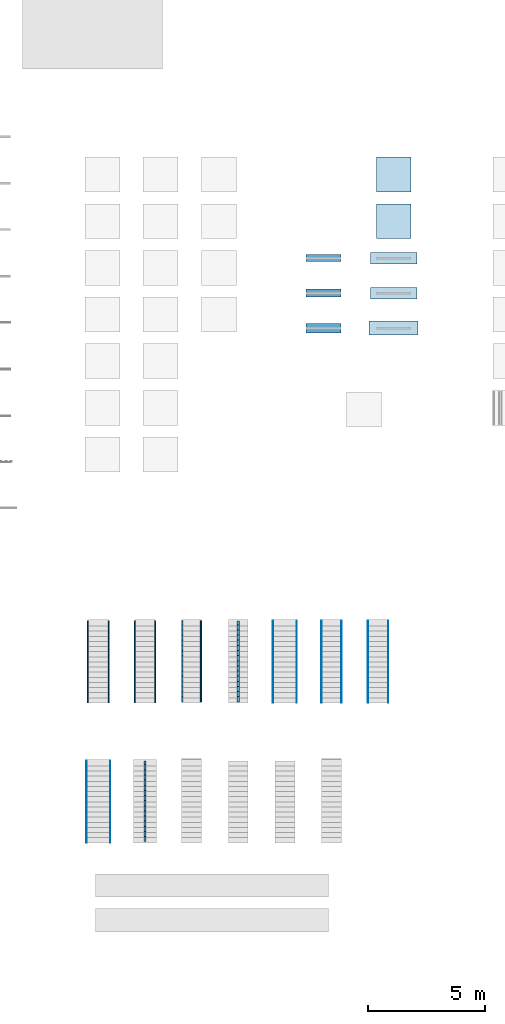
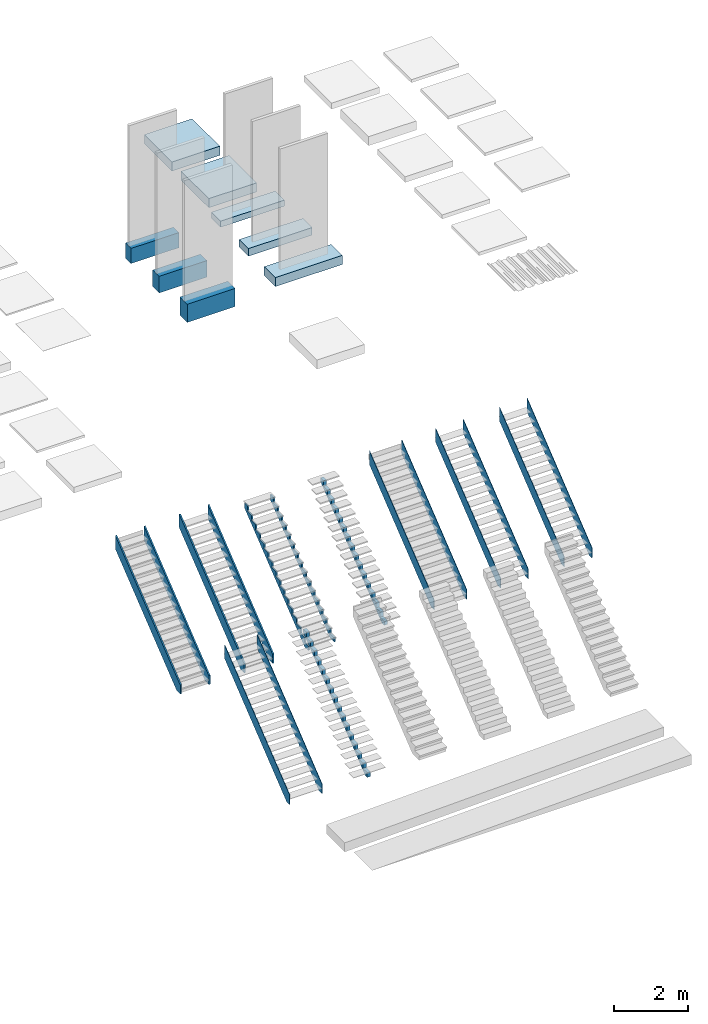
# One storey, part 1 of 14: 16 members, 8 footings, 9 elements without a shape of their own.
"""IFC2X3 building model written with IfcOpenShell, lengths in millimetres."""

from ifc_helpers import new_model, entity, si_unit, converted_unit, derived_unit, direction, frame, frame_2d, origin, origin_2d_with_axis, place, context, subcontext, project, spatial, polyline, rectangle, outline, extrude, material, layer, layer_set, layer_usage, type_object, element, aggregate, save


model = new_model("IFC2X3")

# Units and contexts
model_context = context("Model", 3, precision=0.01, world=origin(), true_north=direction((6.12303176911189e-17, 1.0)))
context_of_model = context(None, 3, precision=0.01, world=origin(), true_north=direction((6.12303176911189e-17, 1.0)))
body_context = subcontext(model_context, "Body", "Model", "MODEL_VIEW")
ifc_project = project(units=[si_unit("LENGTHUNIT", "METRE", prefix="MILLI"), si_unit("AREAUNIT", "SQUARE_METRE"), si_unit("VOLUMEUNIT", "CUBIC_METRE"), converted_unit("PLANEANGLEUNIT", "DEGREE", entity("IfcRatioMeasure", 0.0174532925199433), si_unit("PLANEANGLEUNIT", "RADIAN"), dimensions=[0, 0, 0, 0, 0, 0, 0]), si_unit("MASSUNIT", "GRAM", prefix="KILO"), si_unit("TIMEUNIT", "SECOND"), si_unit("FREQUENCYUNIT", "HERTZ"), si_unit("THERMODYNAMICTEMPERATUREUNIT", "KELVIN"), derived_unit("THERMALTRANSMITTANCEUNIT", [(si_unit("MASSUNIT", "GRAM", prefix="KILO"), 1), (si_unit("THERMODYNAMICTEMPERATUREUNIT", "KELVIN"), -1), (si_unit("TIMEUNIT", "SECOND"), -3)]), derived_unit("VOLUMETRICFLOWRATEUNIT", [(si_unit("LENGTHUNIT", "METRE"), 3), (si_unit("TIMEUNIT", "SECOND"), -1)]), si_unit("ELECTRICCURRENTUNIT", "AMPERE"), si_unit("ELECTRICVOLTAGEUNIT", "VOLT"), si_unit("POWERUNIT", "WATT")], contexts=[model_context, context_of_model])

# Site, building, storey
site_placement = place(None, origin())
site = spatial("IfcSite", under=ifc_project, at=site_placement, Name="Surface", CompositionType="ELEMENT")
building_placement = place(site_placement, origin())
building = spatial("IfcBuilding", under=site, at=building_placement, CompositionType="ELEMENT")
storey_placement = place(building_placement, origin())
storey = spatial("IfcBuildingStorey", under=building, at=storey_placement, Name="00_begane grond", CompositionType="ELEMENT", Elevation=0.0)

# Footings
ifc_material_1 = material(Name="00_beton_ihwg_generiek")
ifc_layer_1 = layer(ifc_material_1, 300.0)
ifc_layer_set_1 = layer_set([ifc_layer_1], Name="Foundation Slab:16_SFO_funderingsplaat_beton_generiek_300")
ifc_layer_usage_1 = layer_usage(ifc_layer_set_1, "AXIS3", "POSITIVE", 0.0)
footing_1_placement = place(storey_placement, origin())
element("IfcFooting", 1, at=footing_1_placement, inside=storey, material=ifc_layer_usage_1, Name="Foundation Slab:16_SFO_funderingsplaat_beton_generiek_300", ObjectType="Foundation Slab:16_SFO_funderingsplaat_beton_generiek_300", PredefinedType="NOTDEFINED", context=body_context, shape_type="SweptSolid", body=[
    extrude(rectangle(XDim=1500.0, YDim=1500.00000000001, at=frame_2d((-1.13686837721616e-13, 0.0), x_axis=(1.0, 0.0))), frame((30443.3473849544, -2665.0, 0.0), z_axis=(0.0, 0.0, -1.0), x_axis=(0.0, 1.0, 0.0)), (0.0, 0.0, 1.0), 300.0),
])
ifc_material_2 = material(Name="16_beton_ihwg_C30/35")
ifc_layer_2 = layer(ifc_material_2, 300.0)
ifc_layer_set_2 = layer_set([ifc_layer_2], Name="Foundation Slab:16_SFO_funderingsplaat_ihwg_beton_C30/37")
ifc_layer_usage_2 = layer_usage(ifc_layer_set_2, "AXIS3", "POSITIVE", 0.0)
footing_2_placement = place(storey_placement, origin())
element("IfcFooting", 2, at=footing_2_placement, inside=storey, material=ifc_layer_usage_2, Name="Foundation Slab:16_SFO_funderingsplaat_ihwg_beton_C30/37", ObjectType="Foundation Slab:16_SFO_funderingsplaat_ihwg_beton_C30/37", PredefinedType="NOTDEFINED", context=body_context, shape_type="SweptSolid", body=[
    extrude(rectangle(XDim=1500.0, YDim=1500.00000000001, at=origin_2d_with_axis()), frame((30443.3473849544, -4665.0, 0.0), z_axis=(0.0, 0.0, -1.0), x_axis=(0.0, 1.0, 0.0)), (0.0, 0.0, 1.0), 300.0),
])
footing_3_placement = place(storey_placement, frame((29439.8687148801, -6498.93800739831, -200.0)))
element("IfcFooting", 3, at=footing_3_placement, inside=storey, material=ifc_material_2, Name="Wall Foundation:16_SFO_ihwg beton_C30-35_500x200", ObjectType="Wall Foundation:16_SFO_ihwg beton_C30-35_500x200", PredefinedType="STRIP_FOOTING", context=body_context, shape_type="SweptSolid", body=[
    extrude(rectangle(XDim=2000.0, YDim=500.0, at=frame_2d((2.1600499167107e-12, -5.40012479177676e-13), x_axis=(1.0, 0.0))), frame((1000.0, 250.0, 0.0)), (0.0, 0.0, 1.0), 200.0),
])
footing_4_placement = place(storey_placement, frame((29439.8687148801, -7998.93800739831, -250.0)))
element("IfcFooting", 4, at=footing_4_placement, inside=storey, material=ifc_material_2, Name="Wall Foundation:16_SFO_ihwg beton_C30-35_500x250", ObjectType="Wall Foundation:16_SFO_ihwg beton_C30-35_500x250", PredefinedType="STRIP_FOOTING", context=body_context, shape_type="SweptSolid", body=[
    extrude(rectangle(XDim=2000.0, YDim=500.0, at=frame_2d((2.1600499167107e-12, 5.40012479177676e-13), x_axis=(1.0, 0.0))), frame((1000.0, 250.0, 0.0)), (0.0, 0.0, 1.0), 250.0),
])
footing_5_placement = place(storey_placement, frame((29389.86871488, -9548.93800739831, -300.0)))
element("IfcFooting", 5, at=footing_5_placement, inside=storey, material=ifc_material_2, Name="Wall Foundation:16_SFO_ihwg beton_C30-35_600x300", ObjectType="Wall Foundation:16_SFO_ihwg beton_C30-35_600x300", PredefinedType="STRIP_FOOTING", context=body_context, shape_type="SweptSolid", body=[
    extrude(rectangle(XDim=2100.0, YDim=600.0, at=frame_2d((2.1600499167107e-12, 5.40012479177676e-13), x_axis=(1.0, 0.0))), frame((1050.0, 300.0, 0.0)), (0.0, 0.0, 1.0), 300.0),
])
ifc_material_3 = material(Name="16_beton_prefab_C35-45")
footing_6_placement = place(storey_placement, frame((26689.8687148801, -6398.9380073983, -500.0)))
element("IfcFooting", 6, at=footing_6_placement, inside=storey, material=ifc_material_3, Name="Wall Foundation:16_SFO_prefab beton_C35-45_300x500", ObjectType="Wall Foundation:16_SFO_prefab beton_C35-45_300x500", PredefinedType="STRIP_FOOTING", context=body_context, shape_type="SweptSolid", body=[
    extrude(rectangle(XDim=1500.0, YDim=300.0, at=frame_2d((2.1600499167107e-12, 0.0), x_axis=(1.0, 0.0))), frame((750.0, 150.0, 0.0)), (0.0, 0.0, 1.0), 500.0),
])
footing_7_placement = place(storey_placement, frame((26689.8687148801, -7923.9380073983, -550.0)))
element("IfcFooting", 7, at=footing_7_placement, inside=storey, material=ifc_material_3, Name="Wall Foundation:16_SFO_prefab beton_C35-45_350x550", ObjectType="Wall Foundation:16_SFO_prefab beton_C35-45_350x550", PredefinedType="STRIP_FOOTING", context=body_context, shape_type="SweptSolid", body=[
    extrude(rectangle(XDim=1500.0, YDim=349.999999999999, at=frame_2d((-2.1600499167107e-12, 1.08002495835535e-12), x_axis=(1.0, 0.0))), frame((750.0, 175.0, 0.0)), (0.0, 0.0, 1.0), 550.0),
])
footing_8_placement = place(storey_placement, frame((26689.86871488, -9448.9380073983, -600.0)))
element("IfcFooting", 8, at=footing_8_placement, inside=storey, material=ifc_material_3, Name="Wall Foundation:16_SFO_prefab beton_C35-45_400x600", ObjectType="Wall Foundation:16_SFO_prefab beton_C35-45_400x600", PredefinedType="STRIP_FOOTING", context=body_context, shape_type="SweptSolid", body=[
    extrude(rectangle(XDim=1500.0, YDim=400.0, at=frame_2d((-2.1600499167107e-12, 5.54223333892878e-13), x_axis=(1.0, 0.0))), frame((750.0, 200.0, 0.0)), (0.0, 0.0, 1.0), 600.0),
])

# Stair, members
stair_1_placement = place(storey_placement, origin())
stair_1 = element("IfcStair", 9, at=stair_1_placement, inside=storey, Name="Assembled Stair:Stair", ShapeType="NOTDEFINED")
member_type_1 = type_object("IfcMemberType", Name="Stringer:24_STS_trapboom_hout_vuren_45x50", PredefinedType="STRINGER")
member_1_placement = place(stair_1_placement, frame((17304.8089026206, -25324.6322235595, 0.0)))
member_1 = element("IfcMember", 10, at=member_1_placement, type_object=member_type_1, Name="Assembled Stair:Stair:68679 Stringer 1", ObjectType="Assembled Stair:24_ST_houten trap_gesloten_b=850_op=185_aan=220", context=body_context, shape_type="SweptSolid", body=[
    extrude(outline(polyline([(-1445.95512853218, -1217.55059934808), (-1256.1794858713, -1217.55059934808), (2074.04487146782, 1453.75236108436), (2074.04487146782, 1902.43912468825), (-1445.95512853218, -921.090287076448), (-1445.95512853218, -1217.55059934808)])), frame((0.0, 1445.95512853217, 1217.55059934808), z_axis=(1.0, 0.0, 0.0), x_axis=(0.0, 1.0, 0.0)), (0.0, 0.0, 1.0), 45.0000000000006),
])
member_2_placement = place(stair_1_placement, frame((18199.8089026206, -25324.6322235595, 0.0)))
member_2 = element("IfcMember", 11, at=member_2_placement, type_object=member_type_1, Name="Assembled Stair:Stair:68679 Stringer 2", ObjectType="Assembled Stair:24_ST_houten trap_gesloten_b=850_op=185_aan=220", context=body_context, shape_type="SweptSolid", body=[
    extrude(outline(polyline([(-1445.95512853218, -1217.55059934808), (-1256.17948587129, -1217.55059934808), (2074.04487146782, 1453.75236108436), (2074.04487146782, 1902.43912468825), (-1445.95512853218, -921.090287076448), (-1445.95512853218, -1217.55059934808)])), frame((0.0, 1445.95512853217, 1217.55059934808), z_axis=(1.0, 0.0, 0.0), x_axis=(0.0, 1.0, 0.0)), (0.0, 0.0, 1.0), 45.0000000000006),
])
aggregate(stair_1, [member_1, member_2])

stair_2_placement = place(storey_placement, origin())
stair_2 = element("IfcStair", 12, at=stair_2_placement, inside=storey, Name="Assembled Stair:Stair", ShapeType="NOTDEFINED")
member_3_placement = place(stair_2_placement, frame((19304.8089026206, -25324.6322235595, 0.0)))
member_3 = element("IfcMember", 13, at=member_3_placement, type_object=member_type_1, Name="Assembled Stair:Stair:68953 Stringer 1", ObjectType="Assembled Stair:24_ST_houten trap_open_b=850_op=185_aan=220", context=body_context, shape_type="SweptSolid", body=[
    extrude(outline(polyline([(-1443.95512853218, -1222.36343357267), (-1264.17948587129, -1222.36343357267), (2076.04487146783, 1456.96091723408), (2076.04487146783, 1905.64768083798), (-1443.95512853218, -917.881730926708), (-1443.95512853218, -1222.36343357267)])), frame((0.0, 1443.95512853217, 1222.36343357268), z_axis=(1.0, 0.0, 0.0), x_axis=(0.0, 1.0, 0.0)), (0.0, 0.0, 1.0), 45.0000000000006),
])
member_4_placement = place(stair_2_placement, frame((20199.8089026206, -25324.6322235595, 0.0)))
member_4 = element("IfcMember", 14, at=member_4_placement, type_object=member_type_1, Name="Assembled Stair:Stair:68953 Stringer 2", ObjectType="Assembled Stair:24_ST_houten trap_open_b=850_op=185_aan=220", context=body_context, shape_type="SweptSolid", body=[
    extrude(outline(polyline([(-1443.95512853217, -1222.36343357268), (-1264.17948587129, -1222.36343357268), (2076.04487146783, 1456.9609172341), (2076.04487146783, 1905.64768083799), (-1443.95512853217, -917.881730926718), (-1443.95512853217, -1222.36343357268)])), frame((0.0, 1443.95512853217, 1222.36343357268), z_axis=(1.0, 0.0, 0.0), x_axis=(0.0, 1.0, 0.0)), (0.0, 0.0, 1.0), 44.9999999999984),
])
aggregate(stair_2, [member_3, member_4])

stair_3_placement = place(storey_placement, origin())
stair_3 = element("IfcStair", 15, at=stair_3_placement, inside=storey, Name="Assembled Stair:Stair", ShapeType="NOTDEFINED")
ifc_material_4 = material(Name="24_hout_vuren_generiek")
member_type_2 = type_object("IfcMemberType", Name="Carriage:24_STC_middenboom_hout_vuren_45x100", PredefinedType="STRINGER")
member_5_placement = place(stair_3_placement, frame((21349.8089026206, -25274.6322235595, 0.0)))
member_5 = element("IfcMember", 16, at=member_5_placement, type_object=member_type_2, material=ifc_material_4, Name="Assembled Stair:Stair:69257 Stringer 1", ObjectType="Assembled Stair:24_ST_houten trap_open_gezadeld_b=850_op=185_aan=220", context=body_context, shape_type="SweptSolid", body=[
    extrude(outline(polyline([(-1743.00630762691, -1423.75434061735), (-1573.00630762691, -1423.75434061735), (-1573.00630762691, -1247.28375238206), (-1353.00630762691, -1247.28375238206), (-1353.00630762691, -1070.81316414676), (-1133.00630762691, -1070.81316414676), (-1133.00630762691, -894.34257591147), (-913.006307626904, -894.34257591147), (-913.006307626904, -717.871987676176), (-693.006307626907, -717.871987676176), (-693.006307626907, -541.401399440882), (-473.006307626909, -541.401399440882), (-473.006307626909, -364.930811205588), (-253.006307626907, -364.930811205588), (-253.006307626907, -188.460222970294), (-33.0063076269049, -188.460222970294), (-33.0063076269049, -11.9896347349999), (186.993692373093, -11.9896347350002), (186.993692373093, 164.480953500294), (406.993692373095, 164.480953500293), (406.993692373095, 340.951541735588), (626.993692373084, 340.951541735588), (626.993692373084, 517.422129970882), (846.993692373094, 517.422129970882), (846.993692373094, 693.892718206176), (1066.99369237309, 693.892718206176), (1066.99369237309, 870.36330644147), (1286.99369237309, 870.36330644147), (1286.99369237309, 1046.83389467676), (1506.99369237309, 1046.83389467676), (1506.99369237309, 1223.30448291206), (1726.99369237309, 1223.30448291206), (1726.99369237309, 1359.77507114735), (1517.30907371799, 1359.77507114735), (1506.99369237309, 1351.5007010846), (1286.99369237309, 1175.03011284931), (1066.99369237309, 998.55952461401), (846.993692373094, 822.088936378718), (626.993692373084, 645.618348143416), (406.993692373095, 469.147759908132), (186.993692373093, 292.677171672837), (-33.0063076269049, 116.206583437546), (-253.006307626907, -60.2640047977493), (-473.006307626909, -236.734593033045), (-693.006307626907, -413.205181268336), (-913.006307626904, -589.675769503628), (-1133.00630762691, -766.146357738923), (-1353.00630762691, -942.616945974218), (-1573.00630762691, -1119.08753420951), (-1743.00630762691, -1255.45117057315), (-1743.00630762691, -1423.75434061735)])), frame((0.0, 1726.99369237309, 1359.77507114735), z_axis=(1.0, 0.0, 0.0), x_axis=(0.0, -1.0, 0.0)), (0.0, 0.0, 1.0), 44.9999999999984),
])
member_6_placement = place(stair_3_placement, frame((22154.8089026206, -25274.6322235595, 0.0)))
member_6 = element("IfcMember", 17, at=member_6_placement, type_object=member_type_2, material=ifc_material_4, Name="Assembled Stair:Stair:69257 Stringer 2", ObjectType="Assembled Stair:24_ST_houten trap_open_gezadeld_b=850_op=185_aan=220", context=body_context, shape_type="SweptSolid", body=[
    extrude(outline(polyline([(-1757.15186803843, -1373.95151914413), (-1587.15186803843, -1373.95151914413), (-1587.15186803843, -1197.48093090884), (-1367.15186803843, -1197.48093090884), (-1367.15186803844, -1021.01034267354), (-1147.15186803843, -1021.01034267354), (-1147.15186803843, -844.539754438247), (-927.151868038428, -844.539754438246), (-927.15186803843, -668.069166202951), (-707.151868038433, -668.06916620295), (-707.151868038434, -491.598577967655), (-487.151868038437, -491.598577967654), (-487.151868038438, -315.127989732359), (-267.151868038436, -315.127989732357), (-267.151868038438, -138.657401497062), (-47.1518680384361, -138.657401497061), (-47.1518680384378, 37.813186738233), (172.84813196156, 37.813186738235), (172.848131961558, 214.283774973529), (392.84813196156, 214.283774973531), (392.848131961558, 390.754363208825), (612.848131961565, 390.754363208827), (612.848131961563, 567.224951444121), (832.848131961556, 567.224951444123), (832.848131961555, 743.695539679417), (1052.84813196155, 743.695539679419), (1052.84813196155, 920.166127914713), (1272.84813196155, 920.166127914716), (1272.84813196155, 1096.63671615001), (1492.84813196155, 1096.63671615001), (1492.84813196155, 1273.10730438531), (1712.84813196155, 1273.10730438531), (1712.84813196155, 1409.5778926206), (1503.16351330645, 1409.5778926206), (-1757.15186803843, -1205.64834909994), (-1757.15186803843, -1373.95151914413)])), frame((0.0, 1712.84813196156, 1409.57789262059), z_axis=(1.0, 0.0, 0.0), x_axis=(0.0, -1.0, 0.0)), (0.0, 0.0, 1.0), 44.9999999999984),
])
aggregate(stair_3, [member_5, member_6])

# Stair, member
stair_4_placement = place(storey_placement, origin())
stair_4 = element("IfcStair", 18, at=stair_4_placement, inside=storey, Name="Assembled Stair:Stair", ShapeType="NOTDEFINED")
member_type_3 = type_object("IfcMemberType", Name="Carriage:24_STC_middenboom_hout_vuren_100x50", PredefinedType="STRINGER")
member_7_placement = place(stair_4_placement, frame((23724.8089026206, -25274.6322235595, 0.0)))
member_7 = element("IfcMember", 19, at=member_7_placement, type_object=member_type_3, material=ifc_material_4, Name="Assembled Stair:Stair:69261 Stringer 1", ObjectType="Assembled Stair:24_ST_houten trap_open_middenboom_b=850_op=185_aan=220", context=body_context, shape_type="SweptSolid", body=[
    extrude(outline(polyline([(-1759.43498163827, -1372.1201445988), (-1589.43498163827, -1372.1201445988), (-1589.43498163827, -1195.6495563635), (-1369.43498163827, -1195.6495563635), (-1369.43498163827, -1019.17896812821), (-1149.43498163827, -1019.17896812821), (-1149.43498163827, -842.708379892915), (-929.434981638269, -842.708379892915), (-929.434981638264, -666.237791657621), (-709.434981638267, -666.237791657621), (-709.434981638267, -489.767203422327), (-489.434981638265, -489.767203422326), (-489.43498163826, -313.296615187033), (-269.434981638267, -313.296615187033), (-269.434981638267, -136.826026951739), (-49.4349816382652, -136.826026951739), (-49.4349816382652, 39.6445612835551), (170.565018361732, 39.6445612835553), (170.565018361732, 216.115149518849), (390.565018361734, 216.115149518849), (390.565018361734, 392.585737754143), (610.565018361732, 392.585737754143), (610.565018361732, 569.056325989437), (830.565018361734, 569.056325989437), (830.565018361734, 745.526914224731), (1050.56501836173, 745.526914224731), (1050.56501836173, 921.997502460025), (1270.56501836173, 921.997502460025), (1270.56501836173, 1098.46809069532), (1490.56501836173, 1098.46809069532), (1490.56501836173, 1274.93867893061), (1710.56501836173, 1274.93867893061), (1710.56501836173, 1411.40926716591), (1580.78937570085, 1411.40926716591), (-1759.43498163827, -1267.91508364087), (-1759.43498163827, -1372.1201445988)])), frame((0.0, 1710.56501836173, 1411.40926716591), z_axis=(1.0, 0.0, 0.0), x_axis=(0.0, -1.0, 0.0)), (0.0, 0.0, 1.0), 100.000000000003),
])
aggregate(stair_4, [member_7])

stair_5_placement = place(storey_placement, origin())
stair_5 = element("IfcStair", 20, at=stair_5_placement, inside=storey, Name="Assembled Stair:Stair", ShapeType="NOTDEFINED")
member_8_placement = place(stair_5_placement, frame((19724.8089026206, -31274.6322235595, 0.0)))
member_8 = element("IfcMember", 21, at=member_8_placement, type_object=member_type_3, material=ifc_material_4, Name="Assembled Stair:Stair:69309 Stringer 1", ObjectType="Assembled Stair:24_ST_stalen trap_open_middenboom_b=1000_op=185_aan=220", context=body_context, shape_type="SweptSolid", body=[
    extrude(outline(polyline([(-1760.32545782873, -1373.54871602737), (-1590.32545782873, -1373.54871602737), (-1590.32545782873, -1197.07812779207), (-1370.32545782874, -1197.07812779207), (-1370.32545782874, -1020.60753955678), (-1150.32545782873, -1020.60753955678), (-1150.32545782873, -844.136951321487), (-930.325457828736, -844.136951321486), (-930.32545782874, -667.666363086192), (-710.325457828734, -667.666363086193), (-710.325457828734, -491.195774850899), (-490.325457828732, -491.195774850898), (-490.325457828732, -314.725186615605), (-270.325457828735, -314.725186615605), (-270.325457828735, -138.25459838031), (-50.3254578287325, -138.254598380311), (-50.3254578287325, 38.2159898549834), (169.674542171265, 38.2159898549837), (169.674542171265, 214.686578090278), (389.674542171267, 214.686578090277), (389.674542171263, 391.157166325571), (609.674542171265, 391.157166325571), (609.674542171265, 567.627754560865), (829.674542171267, 567.627754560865), (829.674542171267, 744.098342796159), (1049.67454217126, 744.098342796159), (1049.67454217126, 920.568931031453), (1269.67454217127, 920.568931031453), (1269.67454217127, 1097.03951926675), (1489.67454217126, 1097.03951926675), (1489.67454217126, 1273.51010750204), (1709.67454217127, 1273.51010750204), (1709.67454217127, 1434.98069573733), (1611.06556617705, 1434.98069573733), (-1760.32545782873, -1269.34365506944), (-1760.32545782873, -1373.54871602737)])), frame((0.0, 1709.67454217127, 1434.98069573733), z_axis=(1.0, 0.0, 0.0), x_axis=(0.0, -1.0, 0.0)), (0.0, 0.0, 1.0), 100.000000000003),
])
aggregate(stair_5, [member_8])

# Stair, members
stair_6_placement = place(storey_placement, origin())
stair_6 = element("IfcStair", 22, at=stair_6_placement, inside=storey, Name="Assembled Stair:Stair", ShapeType="NOTDEFINED")
member_type_4 = type_object("IfcMemberType", Name="Stringer:24_STS_trapboom_hout_vuren_15x50", PredefinedType="STRINGER")
member_9_placement = place(stair_6_placement, frame((25259.8089026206, -25324.6322235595, 0.0)))
member_9 = element("IfcMember", 23, at=member_9_placement, type_object=member_type_4, material=ifc_material_4, Name="Assembled Stair:Stair:69280 Stringer 1", ObjectType="Assembled Stair:24_ST_stalen trap_gesloten_b=1000_op=185_aan=220", context=body_context, shape_type="SweptSolid", body=[
    extrude(outline(polyline([(-1440.72179519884, -1230.14418223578), (-1277.11281920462, -1230.14418223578), (2079.27820480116, 1462.14808300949), (2079.27820480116, 1910.83484661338), (-1440.72179519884, -912.694565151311), (-1440.72179519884, -1230.14418223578)])), frame((0.0, 1440.72179519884, 1230.14418223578), z_axis=(1.0, 0.0, 0.0), x_axis=(0.0, 1.0, 0.0)), (0.0, 0.0, 1.0), 15.0000000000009),
])
member_10_placement = place(stair_6_placement, frame((26274.8089026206, -25324.6322235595, 0.0)))
member_10 = element("IfcMember", 24, at=member_10_placement, type_object=member_type_4, material=ifc_material_4, Name="Assembled Stair:Stair:69280 Stringer 2", ObjectType="Assembled Stair:24_ST_stalen trap_gesloten_b=1000_op=185_aan=220", context=body_context, shape_type="SweptSolid", body=[
    extrude(outline(polyline([(-1440.72179519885, -1230.14418223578), (-1277.11281920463, -1230.14418223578), (2079.27820480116, 1462.14808300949), (2079.27820480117, 1910.83484661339), (-1440.72179519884, -912.694565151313), (-1440.72179519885, -1230.14418223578)])), frame((0.0, 1440.72179519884, 1230.14418223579), z_axis=(1.0, 0.0, 0.0), x_axis=(0.0, 1.0, 0.0)), (0.0, 0.0, 1.0), 15.0000000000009),
])
aggregate(stair_6, [member_9, member_10])

stair_7_placement = place(storey_placement, origin())
stair_7 = element("IfcStair", 25, at=stair_7_placement, inside=storey, Name="Assembled Stair:Stair", ShapeType="NOTDEFINED")
member_11_placement = place(stair_7_placement, frame((27334.8089026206, -25324.6322235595, 0.0)))
member_11 = element("IfcMember", 26, at=member_11_placement, type_object=member_type_4, material=ifc_material_4, Name="Assembled Stair:Stair:69283 Stringer 1", ObjectType="Assembled Stair:24_ST_stalen trap_open_b=850_op=185_aan=150", context=body_context, shape_type="SweptSolid", body=[
    extrude(outline(polyline([(-1437.72179519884, -1237.36343357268), (-1289.11281920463, -1237.36343357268), (2082.27820480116, 1466.96091723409), (2082.27820480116, 1915.64768083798), (-1437.72179519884, -907.881730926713), (-1437.72179519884, -1237.36343357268)])), frame((0.0, 1437.72179519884, 1237.36343357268), z_axis=(1.0, 0.0, 0.0), x_axis=(0.0, 1.0, 0.0)), (0.0, 0.0, 1.0), 15.0000000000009),
])
member_12_placement = place(stair_7_placement, frame((28199.8089026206, -25324.6322235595, 0.0)))
member_12 = element("IfcMember", 27, at=member_12_placement, type_object=member_type_4, material=ifc_material_4, Name="Assembled Stair:Stair:69283 Stringer 2", ObjectType="Assembled Stair:24_ST_stalen trap_open_b=850_op=185_aan=150", context=body_context, shape_type="SweptSolid", body=[
    extrude(outline(polyline([(-1437.72179519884, -1237.36343357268), (-1289.11281920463, -1237.36343357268), (2082.27820480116, 1466.9609172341), (2082.27820480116, 1915.64768083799), (-1437.72179519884, -907.881730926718), (-1437.72179519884, -1237.36343357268)])), frame((0.0, 1437.72179519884, 1237.36343357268), z_axis=(1.0, 0.0, 0.0), x_axis=(0.0, 1.0, 0.0)), (0.0, 0.0, 1.0), 15.0000000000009),
])
aggregate(stair_7, [member_11, member_12])

stair_8_placement = place(storey_placement, origin())
stair_8 = element("IfcStair", 28, at=stair_8_placement, inside=storey, Name="Assembled Stair:Stair", ShapeType="NOTDEFINED")
member_13_placement = place(stair_8_placement, frame((29334.8089026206, -25324.6322235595, 0.0)))
member_13 = element("IfcMember", 29, at=member_13_placement, type_object=member_type_4, material=ifc_material_4, Name="Assembled Stair:Stair:69288 Stringer 1", ObjectType="Assembled Stair:24_ST_stalen trap_open_b=850_op=185_aan=220", context=body_context, shape_type="SweptSolid", body=[
    extrude(outline(polyline([(-1437.72179519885, -1237.36343357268), (-1289.11281920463, -1237.36343357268), (2082.27820480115, 1466.96091723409), (2082.27820480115, 1915.64768083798), (-1437.72179519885, -907.881730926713), (-1437.72179519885, -1237.36343357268)])), frame((0.0, 1437.72179519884, 1237.36343357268), z_axis=(1.0, 0.0, 0.0), x_axis=(0.0, 1.0, 0.0)), (0.0, 0.0, 1.0), 15.0000000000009),
])
member_14_placement = place(stair_8_placement, frame((30199.8089026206, -25324.6322235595, 0.0)))
member_14 = element("IfcMember", 30, at=member_14_placement, type_object=member_type_4, material=ifc_material_4, Name="Assembled Stair:Stair:69288 Stringer 2", ObjectType="Assembled Stair:24_ST_stalen trap_open_b=850_op=185_aan=220", context=body_context, shape_type="SweptSolid", body=[
    extrude(outline(polyline([(-1437.72179519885, -1237.36343357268), (-1289.11281920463, -1237.36343357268), (2082.27820480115, 1466.9609172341), (2082.27820480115, 1915.64768083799), (-1437.72179519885, -907.881730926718), (-1437.72179519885, -1237.36343357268)])), frame((0.0, 1437.72179519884, 1237.36343357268), z_axis=(1.0, 0.0, 0.0), x_axis=(0.0, 1.0, 0.0)), (0.0, 0.0, 1.0), 15.0000000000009),
])
aggregate(stair_8, [member_13, member_14])

stair_9_placement = place(storey_placement, origin())
stair_9 = element("IfcStair", 31, at=stair_9_placement, inside=storey, Name="Assembled Stair:Stair", ShapeType="NOTDEFINED")
member_15_placement = place(stair_9_placement, frame((17259.8089026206, -31324.6322235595, 0.0)))
member_15 = element("IfcMember", 32, at=member_15_placement, type_object=member_type_4, material=ifc_material_4, Name="Assembled Stair:Stair:69305 Stringer 1", ObjectType="Assembled Stair:24_ST_stalen trap_open_b=1000_op=185_aan=350", context=body_context, shape_type="SweptSolid", body=[
    extrude(outline(polyline([(-1437.72179519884, -1237.36343357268), (-1289.11281920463, -1237.36343357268), (2082.27820480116, 1466.96091723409), (2082.27820480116, 1915.64768083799), (-1437.72179519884, -907.881730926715), (-1437.72179519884, -1237.36343357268)])), frame((0.0, 1437.72179519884, 1237.36343357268), z_axis=(1.0, 0.0, 0.0), x_axis=(0.0, 1.0, 0.0)), (0.0, 0.0, 1.0), 15.0000000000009),
])
member_16_placement = place(stair_9_placement, frame((18274.8089026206, -31324.6322235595, 0.0)))
member_16 = element("IfcMember", 33, at=member_16_placement, type_object=member_type_4, material=ifc_material_4, Name="Assembled Stair:Stair:69305 Stringer 2", ObjectType="Assembled Stair:24_ST_stalen trap_open_b=1000_op=185_aan=350", context=body_context, shape_type="SweptSolid", body=[
    extrude(outline(polyline([(-1437.72179519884, -1237.36343357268), (-1289.11281920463, -1237.36343357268), (2082.27820480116, 1466.96091723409), (2082.27820480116, 1915.64768083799), (-1437.72179519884, -907.881730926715), (-1437.72179519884, -1237.36343357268)])), frame((0.0, 1437.72179519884, 1237.36343357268), z_axis=(1.0, 0.0, 0.0), x_axis=(0.0, 1.0, 0.0)), (0.0, 0.0, 1.0), 15.0000000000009),
])
aggregate(stair_9, [member_15, member_16])

save(model, "model.ifc")
